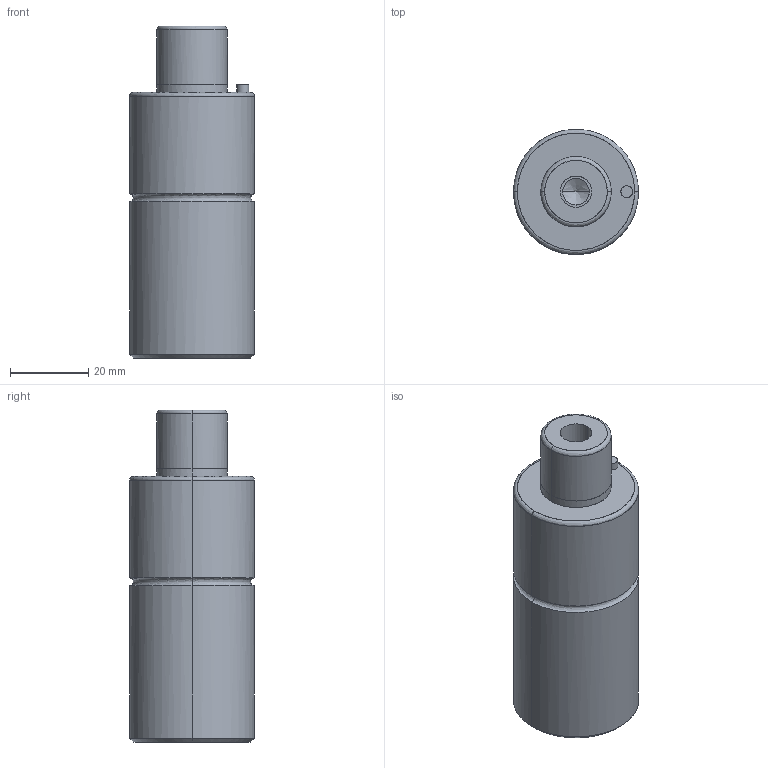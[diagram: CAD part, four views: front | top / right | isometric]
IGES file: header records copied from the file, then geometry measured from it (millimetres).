
Global section: file name: E:\UnigraphicsGraphicData\MISUMI_PRESS-PARTS\IGES\3d_gsm32-15_03938_r00.igs; native system: NX V5.0; preprocessor: UGS NX IGES V5.0; author: MISUMI; date: 20110105.160809; units: millimetre
Bounding box: 32 x 31.96 x 85 mm (x, y, z)
Surface area: 10263.5 mm2 (no closed solid volume)
Topology: 0 solids, 0 shells, 50 faces, 328 edges, 320 vertices
Faces by surface type: bspline 50
